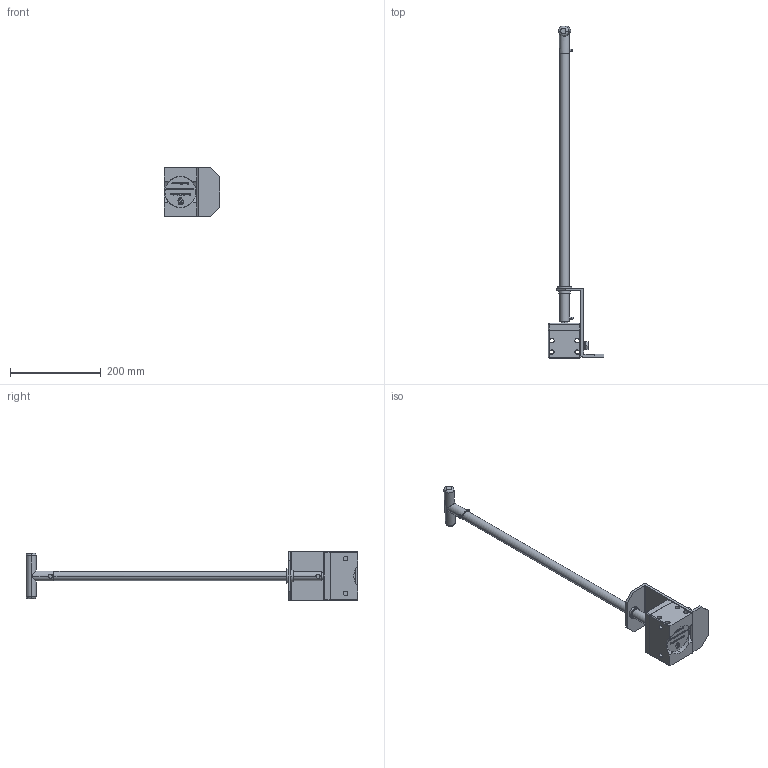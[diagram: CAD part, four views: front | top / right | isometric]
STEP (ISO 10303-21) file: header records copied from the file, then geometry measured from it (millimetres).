
FILE_DESCRIPTION (( 'STEP AP203' ), '1' );
FILE_NAME ('8000177_p.STEP', '2020-03-03T21:44:19', ( '' ), ( '' ), 'SwSTEP 2.0', 'SolidWorks 2018', '' );
FILE_SCHEMA (( 'CONFIG_CONTROL_DESIGN' ));
Length unit declared in the file: millimetre
Products named in the file (1): 8000177_p
Bounding box: 122.8 x 731.5 x 108 mm (x, y, z)
Surface area: 156990.3 mm2 (no closed solid volume)
Topology: 0 solids, 43 shells, 277 faces, 1605 edges, 1349 vertices
Faces by surface type: plane 119, cylinder 68, cone 42, bspline 26, torus 14, sphere 8
Entity records: 21982 total; most frequent: CARTESIAN_POINT 10798, ORIENTED_EDGE 2014, DIRECTION 1881, EDGE_CURVE 1591, VERTEX_POINT 1343, VECTOR 781, LINE 781, AXIS2_PLACEMENT_3D 550
